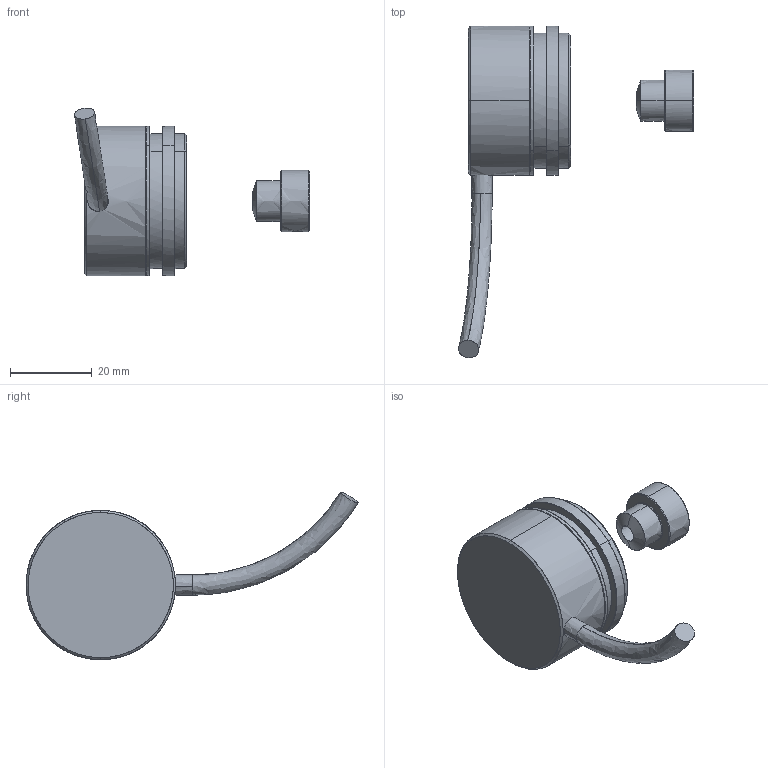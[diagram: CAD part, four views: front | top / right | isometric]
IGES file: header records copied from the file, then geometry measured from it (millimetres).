
Start section:  PTC IGES file: C:\Bobstuff\solid-files-RMxx\Shells\rm36-assembly_shell. igs
Global section: file name: C:\Bobstuff\solid-files-RMxx\Shells\rm36-assembly_shell.igs; native system: Pro/ENGINEER by Parametric Technology Corporation; preprocessor: 2002270; author: RChallman; organization: Unknown; date: 030107.104236; units: inch
Bounding box: 57.47 x 81.11 x 40.93 mm (x, y, z)
Surface area: 7529.5 mm2 (no closed solid volume)
Topology: 0 solids, 0 shells, 101 faces, 416 edges, 416 vertices
Faces by surface type: bspline 101
